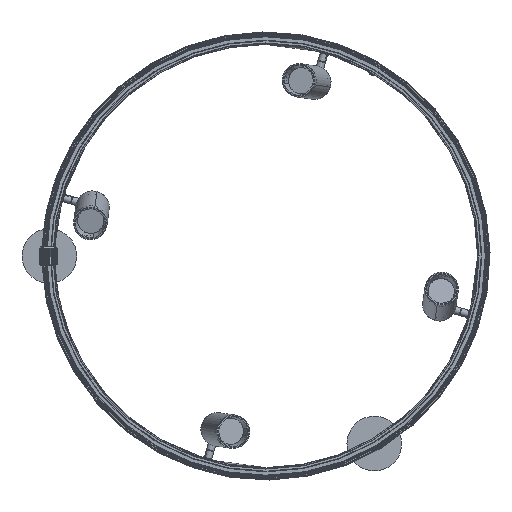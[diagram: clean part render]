
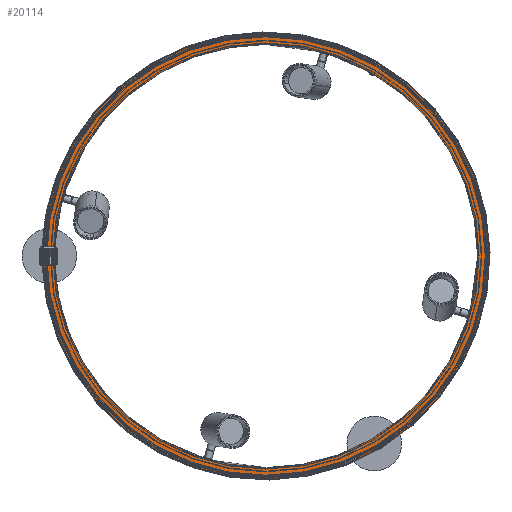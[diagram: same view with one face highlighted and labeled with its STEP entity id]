
A CAD part, left-side view. The second image highlights one B-rep face of the part: STEP entity #20114.
In plain terms, the highlighted planar face has unit normal (-1, 0, 0).
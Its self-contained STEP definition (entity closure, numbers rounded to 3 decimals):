
#2254 = CARTESIAN_POINT ( 'NONE',  ( -15., -348.15, 0. ) ) ;
#2793 = EDGE_CURVE ( 'NONE', #10206, #49307, #46875, .T. ) ;
#3017 = AXIS2_PLACEMENT_3D ( 'NONE', #93553, #104190, #78331 ) ;
#10050 = ORIENTED_EDGE ( 'NONE', *, *, #46448, .F. ) ;
#10206 = VERTEX_POINT ( 'NONE', #65574 ) ;
#10265 = CIRCLE ( 'NONE', #39078, 348.45 ) ;
#12382 = DIRECTION ( 'NONE',  ( 0., 0., -1. ) ) ;
#16118 = DIRECTION ( 'NONE',  ( 1., 0., 0. ) ) ;
#20114 = ADVANCED_FACE ( 'NONE', ( #104314, #76796 ), #95856, .T. ) ;
#20849 = ORIENTED_EDGE ( 'NONE', *, *, #90245, .T. ) ;
#24794 = ORIENTED_EDGE ( 'NONE', *, *, #2793, .F. ) ;
#29463 = EDGE_CURVE ( 'NONE', #62131, #93234, #98262, .T. ) ;
#33472 = EDGE_LOOP ( 'NONE', ( #24794, #10050 ) ) ;
#38156 = DIRECTION ( 'NONE',  ( 0., 0., -1. ) ) ;
#39078 = AXIS2_PLACEMENT_3D ( 'NONE', #2254, #53143, #12382 ) ;
#44531 = CARTESIAN_POINT ( 'NONE',  ( -15., 19.595, 0. ) ) ;
#46448 = EDGE_CURVE ( 'NONE', #49307, #10206, #51793, .T. ) ;
#46875 = CIRCLE ( 'NONE', #100947, 367.745 ) ;
#49307 = VERTEX_POINT ( 'NONE', #49902 ) ;
#49902 = CARTESIAN_POINT ( 'NONE',  ( -15., -348.15, 367.745 ) ) ;
#49979 = ORIENTED_EDGE ( 'NONE', *, *, #29463, .T. ) ;
#51346 = DIRECTION ( 'NONE',  ( -1., 0., 0. ) ) ;
#51793 = CIRCLE ( 'NONE', #3017, 367.745 ) ;
#53143 = DIRECTION ( 'NONE',  ( 1., 0., 0. ) ) ;
#55155 = CARTESIAN_POINT ( 'NONE',  ( -15., -348.15, 0. ) ) ;
#62131 = VERTEX_POINT ( 'NONE', #95511 ) ;
#63287 = AXIS2_PLACEMENT_3D ( 'NONE', #44531, #51346, #68292 ) ;
#65574 = CARTESIAN_POINT ( 'NONE',  ( -15., -348.15, -367.745 ) ) ;
#65988 = AXIS2_PLACEMENT_3D ( 'NONE', #55155, #81112, #38156 ) ;
#68292 = DIRECTION ( 'NONE',  ( 0., 0., 1. ) ) ;
#76796 = FACE_OUTER_BOUND ( 'NONE', #33472, .T. ) ;
#77695 = DIRECTION ( 'NONE',  ( 0., 0., -1. ) ) ;
#78331 = DIRECTION ( 'NONE',  ( 0., 0., -1. ) ) ;
#81112 = DIRECTION ( 'NONE',  ( 1., 0., 0. ) ) ;
#85038 = CARTESIAN_POINT ( 'NONE',  ( -15., -348.15, 0. ) ) ;
#90245 = EDGE_CURVE ( 'NONE', #93234, #62131, #10265, .T. ) ;
#93234 = VERTEX_POINT ( 'NONE', #101286 ) ;
#93553 = CARTESIAN_POINT ( 'NONE',  ( -15., -348.15, 0. ) ) ;
#95511 = CARTESIAN_POINT ( 'NONE',  ( -15., -348.15, 348.45 ) ) ;
#95856 = PLANE ( 'NONE',  #63287 ) ;
#98262 = CIRCLE ( 'NONE', #65988, 348.45 ) ;
#99940 = EDGE_LOOP ( 'NONE', ( #20849, #49979 ) ) ;
#100947 = AXIS2_PLACEMENT_3D ( 'NONE', #85038, #16118, #77695 ) ;
#101286 = CARTESIAN_POINT ( 'NONE',  ( -15., -348.15, -348.45 ) ) ;
#104190 = DIRECTION ( 'NONE',  ( 1., 0., 0. ) ) ;
#104314 = FACE_BOUND ( 'NONE', #99940, .T. ) ;
